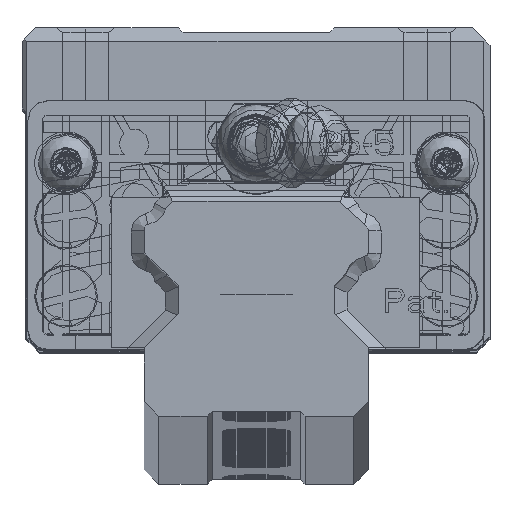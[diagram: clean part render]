
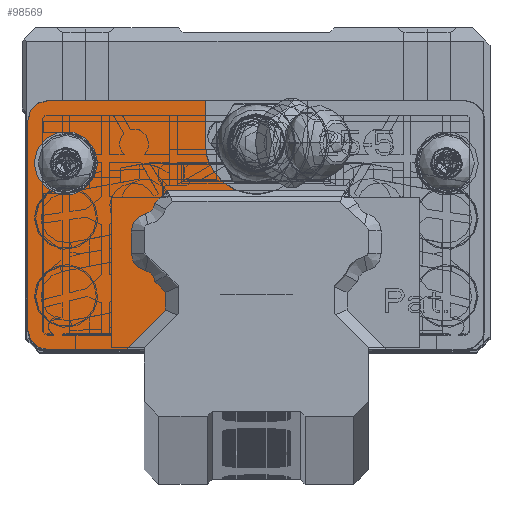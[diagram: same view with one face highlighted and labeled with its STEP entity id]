
A CAD part, top view. The second image highlights one B-rep face of the part: STEP entity #98569.
In plain terms, the highlighted planar face has unit normal (0, 0, 1).
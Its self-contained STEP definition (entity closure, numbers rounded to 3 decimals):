
#5152=DIRECTION('',(1.,0.,0.));
#5153=VECTOR('',#5152,8.062);
#5154=CARTESIAN_POINT('',(-21.4,-11.,44.));
#5155=LINE('',#5154,#5153);
#5212=DIRECTION('',(0.,-1.,0.));
#5213=VECTOR('',#5212,21.5);
#5214=CARTESIAN_POINT('',(-23.4,12.5,44.));
#5215=LINE('',#5214,#5213);
#5244=DIRECTION('',(-1.,0.,0.));
#5245=VECTOR('',#5244,16.15);
#5246=CARTESIAN_POINT('',(-5.25,14.5,44.));
#5247=LINE('',#5246,#5245);
#33365=CARTESIAN_POINT('',(-2.01,5.3,44.));
#33371=DIRECTION('',(-1.,0.,0.));
#33372=VECTOR('',#33371,7.076);
#33373=CARTESIAN_POINT('',(-2.01,5.3,44.));
#33374=LINE('',#33373,#33372);
#33375=DIRECTION('',(-0.707,-0.707,
0.));
#33376=VECTOR('',#33375,1.849);
#33377=CARTESIAN_POINT('',(-9.086,5.3,44.));
#33378=LINE('',#33377,#33376);
#33379=CARTESIAN_POINT('',(-11.567,4.067,
44.));
#33380=DIRECTION('',(0.,0.,-1.));
#33381=DIRECTION('',(0.998,-0.064,0.));
#33382=AXIS2_PLACEMENT_3D('',#33379,#33380,#33381);
#33384=CARTESIAN_POINT('',(-11.,1.145,44.));
#33385=DIRECTION('',(0.,0.,1.));
#33386=DIRECTION('',(-0.191,0.982,0.));
#33387=AXIS2_PLACEMENT_3D('',#33384,#33385,#33386);
#33389=DIRECTION('',(0.,-1.,0.));
#33390=VECTOR('',#33389,2.291);
#33391=CARTESIAN_POINT('',(-12.8,1.145,
44.));
#33392=LINE('',#33391,#33390);
#33393=CARTESIAN_POINT('',(-11.,-1.145,44.));
#33394=DIRECTION('',(0.,0.,1.));
#33395=DIRECTION('',(-1.,0.,0.));
#33396=AXIS2_PLACEMENT_3D('',#33393,#33394,#33395);
#33398=CARTESIAN_POINT('',(-11.567,-4.067,
44.));
#33399=DIRECTION('',(0.,0.,-1.));
#33400=DIRECTION('',(0.191,0.982,0.));
#33401=AXIS2_PLACEMENT_3D('',#33398,#33399,#33400);
#33403=DIRECTION('',(0.,-1.,0.));
#33404=VECTOR('',#33403,1.823);
#33405=CARTESIAN_POINT('',(-9.3,-5.138,44.));
#33406=LINE('',#33405,#33404);
#33407=DIRECTION('',(-0.707,-0.707,0.));
#33408=VECTOR('',#33407,5.711);
#33409=CARTESIAN_POINT('',(-9.3,-6.962,44.));
#33410=LINE('',#33409,#33408);
#33411=CARTESIAN_POINT('',(-21.4,-9.,44.));
#33412=DIRECTION('',(0.,0.,-1.));
#33413=DIRECTION('',(0.,-1.,0.));
#33414=AXIS2_PLACEMENT_3D('',#33411,#33412,#33413);
#33416=CARTESIAN_POINT('',(-21.4,12.5,44.));
#33417=DIRECTION('',(0.,0.,-1.));
#33418=DIRECTION('',(-1.,0.,0.));
#33419=AXIS2_PLACEMENT_3D('',#33416,#33417,#33418);
#33421=DIRECTION('',(0.,-1.,0.));
#33422=VECTOR('',#33421,4.35);
#33423=CARTESIAN_POINT('',(-5.25,14.5,44.));
#33424=LINE('',#33423,#33422);
#33425=CARTESIAN_POINT('',(0.,10.15,44.));
#33426=DIRECTION('',(0.,0.,1.));
#33427=DIRECTION('',(-1.,0.,0.));
#33428=AXIS2_PLACEMENT_3D('',#33425,#33426,#33427);
#33430=CARTESIAN_POINT('',(-19.5,8.1,44.));
#33431=DIRECTION('',(0.,0.,1.));
#33432=DIRECTION('',(-1.,0.,0.));
#33433=AXIS2_PLACEMENT_3D('',#33430,#33431,#33432);
#33435=CARTESIAN_POINT('',(-19.5,8.1,44.));
#33436=DIRECTION('',(0.,0.,1.));
#33437=DIRECTION('',(1.,0.,0.));
#33438=AXIS2_PLACEMENT_3D('',#33435,#33436,#33437);
#33449=CARTESIAN_POINT('',(-10.393,3.992,
44.));
#33543=CARTESIAN_POINT('',(-10.391,-4.047,
44.));
#33554=DIRECTION('',(-0.707,0.707,0.));
#33555=VECTOR('',#33554,1.543);
#33556=CARTESIAN_POINT('',(-9.3,-5.138,44.));
#33557=LINE('',#33556,#33555);
#42632=VERTEX_POINT('',#33365);
#42633=CARTESIAN_POINT('',(-5.25,10.15,44.));
#42634=VERTEX_POINT('',#42633);
#42639=CARTESIAN_POINT('',(-9.086,5.3,44.));
#42640=VERTEX_POINT('',#42639);
#42646=VERTEX_POINT('',#33449);
#42649=CARTESIAN_POINT('',(-11.343,2.912,
44.));
#42650=VERTEX_POINT('',#42649);
#42653=CARTESIAN_POINT('',(-12.8,1.145,
44.));
#42654=VERTEX_POINT('',#42653);
#42657=CARTESIAN_POINT('',(-12.8,-1.145,44.));
#42658=VERTEX_POINT('',#42657);
#42661=CARTESIAN_POINT('',(-11.343,-2.912,
44.));
#42662=VERTEX_POINT('',#42661);
#42665=VERTEX_POINT('',#33543);
#42668=CARTESIAN_POINT('',(-9.3,-5.138,44.));
#42669=VERTEX_POINT('',#42668);
#42672=CARTESIAN_POINT('',(-9.3,-6.962,44.));
#42673=VERTEX_POINT('',#42672);
#42676=CARTESIAN_POINT('',(-13.338,-11.,
44.));
#42677=VERTEX_POINT('',#42676);
#42678=CARTESIAN_POINT('',(-21.4,-11.,44.));
#42679=VERTEX_POINT('',#42678);
#42680=CARTESIAN_POINT('',(-23.4,-9.,44.));
#42681=VERTEX_POINT('',#42680);
#42682=CARTESIAN_POINT('',(-23.4,12.5,44.));
#42683=VERTEX_POINT('',#42682);
#42684=CARTESIAN_POINT('',(-21.4,14.5,44.));
#42685=VERTEX_POINT('',#42684);
#42686=CARTESIAN_POINT('',(-5.25,14.5,44.));
#42687=VERTEX_POINT('',#42686);
#42688=CARTESIAN_POINT('',(-22.75,8.1,44.));
#42689=CARTESIAN_POINT('',(-16.25,8.1,44.));
#42690=VERTEX_POINT('',#42688);
#42691=VERTEX_POINT('',#42689);
#98529=CARTESIAN_POINT('',(0.,0.,44.));
#98530=DIRECTION('',(0.,0.,1.));
#98531=DIRECTION('',(1.,0.,0.));
#98532=AXIS2_PLACEMENT_3D('',#98529,#98530,#98531);
#98533=PLANE('',#98532);
#98534=ORIENTED_EDGE('',*,*,#98047,.T.);
#98536=ORIENTED_EDGE('',*,*,#98535,.T.);
#98538=ORIENTED_EDGE('',*,*,#98537,.T.);
#98540=ORIENTED_EDGE('',*,*,#98539,.T.);
#98542=ORIENTED_EDGE('',*,*,#98541,.T.);
#98544=ORIENTED_EDGE('',*,*,#98543,.T.);
#98546=ORIENTED_EDGE('',*,*,#98545,.T.);
#98548=ORIENTED_EDGE('',*,*,#98547,.F.);
#98550=ORIENTED_EDGE('',*,*,#98549,.T.);
#98552=ORIENTED_EDGE('',*,*,#98551,.T.);
#98553=ORIENTED_EDGE('',*,*,#53868,.F.);
#98554=ORIENTED_EDGE('',*,*,#53899,.T.);
#98555=ORIENTED_EDGE('',*,*,#53918,.F.);
#98556=ORIENTED_EDGE('',*,*,#53933,.T.);
#98557=ORIENTED_EDGE('',*,*,#53956,.F.);
#98559=ORIENTED_EDGE('',*,*,#98558,.T.);
#98560=ORIENTED_EDGE('',*,*,#98522,.T.);
#98561=EDGE_LOOP('',(#98534,#98536,#98538,#98540,#98542,#98544,#98546,#98548,
#98550,#98552,#98553,#98554,#98555,#98556,#98557,#98559,#98560));
#98562=FACE_OUTER_BOUND('',#98561,.F.);
#98564=ORIENTED_EDGE('',*,*,#98563,.T.);
#98566=ORIENTED_EDGE('',*,*,#98565,.T.);
#98567=EDGE_LOOP('',(#98564,#98566));
#98568=FACE_BOUND('',#98567,.F.);
#98569=ADVANCED_FACE('',(#98562,#98568),#98533,.T.);
#33383=CIRCLE('',#33382,1.176);
#33388=CIRCLE('',#33387,1.8);
#33397=CIRCLE('',#33396,1.8);
#33402=CIRCLE('',#33401,1.177);
#33415=CIRCLE('',#33414,2.);
#33420=CIRCLE('',#33419,2.);
#33429=CIRCLE('',#33428,5.25);
#33434=CIRCLE('',#33433,3.25);
#33439=CIRCLE('',#33438,3.25);
#53868=EDGE_CURVE('',#42679,#42677,#5155,.T.);
#53899=EDGE_CURVE('',#42679,#42681,#33415,.T.);
#53918=EDGE_CURVE('',#42683,#42681,#5215,.T.);
#53933=EDGE_CURVE('',#42683,#42685,#33420,.T.);
#53956=EDGE_CURVE('',#42687,#42685,#5247,.T.);
#98047=EDGE_CURVE('',#42632,#42640,#33374,.T.);
#98522=EDGE_CURVE('',#42634,#42632,#33429,.T.);
#98535=EDGE_CURVE('',#42640,#42646,#33378,.T.);
#98537=EDGE_CURVE('',#42646,#42650,#33383,.T.);
#98539=EDGE_CURVE('',#42650,#42654,#33388,.T.);
#98541=EDGE_CURVE('',#42654,#42658,#33392,.T.);
#98543=EDGE_CURVE('',#42658,#42662,#33397,.T.);
#98545=EDGE_CURVE('',#42662,#42665,#33402,.T.);
#98547=EDGE_CURVE('',#42669,#42665,#33557,.T.);
#98549=EDGE_CURVE('',#42669,#42673,#33406,.T.);
#98551=EDGE_CURVE('',#42673,#42677,#33410,.T.);
#98558=EDGE_CURVE('',#42687,#42634,#33424,.T.);
#98563=EDGE_CURVE('',#42690,#42691,#33434,.T.);
#98565=EDGE_CURVE('',#42691,#42690,#33439,.T.);
